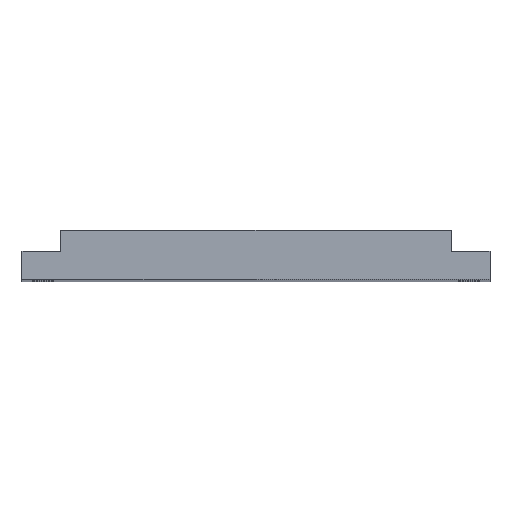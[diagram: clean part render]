
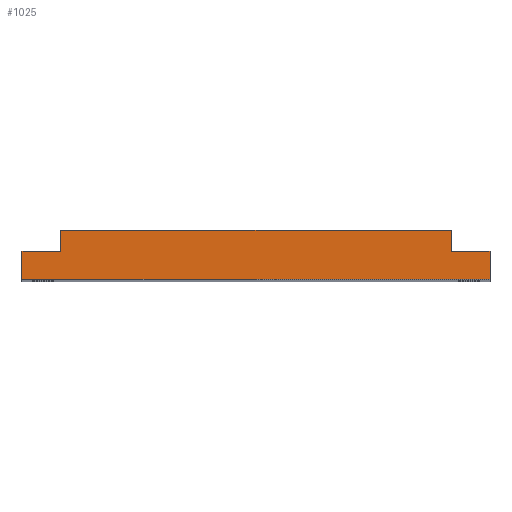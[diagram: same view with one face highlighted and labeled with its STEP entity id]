
A CAD part, top view. The second image highlights one B-rep face of the part: STEP entity #1025.
In plain terms, the highlighted planar face has unit normal (0, 0, 1).
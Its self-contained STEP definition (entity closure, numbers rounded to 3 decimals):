
#35 = DIRECTION ( 'NONE',  ( 0., -1., 0. ) ) ;
#94 = DIRECTION ( 'NONE',  ( -1., 0., 0. ) ) ;
#100 = VECTOR ( 'NONE', #912, 1000. ) ;
#101 = VERTEX_POINT ( 'NONE', #508 ) ;
#107 = EDGE_CURVE ( 'NONE', #101, #206, #880, .T. ) ;
#116 = CARTESIAN_POINT ( 'NONE',  ( 50., -3., 288. ) ) ;
#130 = EDGE_CURVE ( 'NONE', #975, #1013, #1177, .T. ) ;
#151 = DIRECTION ( 'NONE',  ( 1., 0., 0. ) ) ;
#156 = DIRECTION ( 'NONE',  ( -1., 0., 0. ) ) ;
#206 = VERTEX_POINT ( 'NONE', #1183 ) ;
#218 = CARTESIAN_POINT ( 'NONE',  ( -50., -3., 288. ) ) ;
#283 = EDGE_CURVE ( 'NONE', #1204, #672, #570, .T. ) ;
#284 = EDGE_CURVE ( 'NONE', #804, #975, #292, .T. ) ;
#292 = LINE ( 'NONE', #660, #597 ) ;
#305 = LINE ( 'NONE', #440, #100 ) ;
#306 = ORIENTED_EDGE ( 'NONE', *, *, #130, .T. ) ;
#320 = AXIS2_PLACEMENT_3D ( 'NONE', #1191, #918, #151 ) ;
#342 = PLANE ( 'NONE',  #320 ) ;
#346 = ORIENTED_EDGE ( 'NONE', *, *, #284, .T. ) ;
#359 = CARTESIAN_POINT ( 'NONE',  ( 50., 3., 288. ) ) ;
#393 = EDGE_CURVE ( 'NONE', #876, #1204, #867, .T. ) ;
#409 = CARTESIAN_POINT ( 'NONE',  ( -41.75, 7.5, 288. ) ) ;
#440 = CARTESIAN_POINT ( 'NONE',  ( 50., -3., 288. ) ) ;
#467 = LINE ( 'NONE', #596, #920 ) ;
#477 = CARTESIAN_POINT ( 'NONE',  ( -41.75, 3., 288. ) ) ;
#479 = EDGE_CURVE ( 'NONE', #672, #101, #543, .T. ) ;
#501 = ORIENTED_EDGE ( 'NONE', *, *, #946, .T. ) ;
#502 = DIRECTION ( 'NONE',  ( -1., 0., 0. ) ) ;
#508 = CARTESIAN_POINT ( 'NONE',  ( 41.75, 7.5, 288. ) ) ;
#510 = CARTESIAN_POINT ( 'NONE',  ( -50., -3., 288. ) ) ;
#512 = VECTOR ( 'NONE', #700, 1000. ) ;
#543 = LINE ( 'NONE', #900, #512 ) ;
#559 = CARTESIAN_POINT ( 'NONE',  ( 41.75, 3., 288. ) ) ;
#570 = LINE ( 'NONE', #737, #1019 ) ;
#575 = ORIENTED_EDGE ( 'NONE', *, *, #1144, .T. ) ;
#578 = FACE_OUTER_BOUND ( 'NONE', #689, .T. ) ;
#596 = CARTESIAN_POINT ( 'NONE',  ( -41.75, 7.5, 288. ) ) ;
#597 = VECTOR ( 'NONE', #156, 1000. ) ;
#599 = DIRECTION ( 'NONE',  ( 0., -1., 0. ) ) ;
#620 = ORIENTED_EDGE ( 'NONE', *, *, #479, .T. ) ;
#660 = CARTESIAN_POINT ( 'NONE',  ( -41.75, 3., 288. ) ) ;
#672 = VERTEX_POINT ( 'NONE', #559 ) ;
#689 = EDGE_LOOP ( 'NONE', ( #306, #575, #718, #1090, #620, #840, #501, #346 ) ) ;
#700 = DIRECTION ( 'NONE',  ( 0., 1., 0. ) ) ;
#718 = ORIENTED_EDGE ( 'NONE', *, *, #393, .T. ) ;
#737 = CARTESIAN_POINT ( 'NONE',  ( 50., 3., 288. ) ) ;
#804 = VERTEX_POINT ( 'NONE', #477 ) ;
#840 = ORIENTED_EDGE ( 'NONE', *, *, #107, .T. ) ;
#842 = VECTOR ( 'NONE', #35, 1000. ) ;
#867 = LINE ( 'NONE', #953, #1092 ) ;
#876 = VERTEX_POINT ( 'NONE', #116 ) ;
#880 = LINE ( 'NONE', #409, #1093 ) ;
#884 = CARTESIAN_POINT ( 'NONE',  ( -50., 3., 288. ) ) ;
#900 = CARTESIAN_POINT ( 'NONE',  ( 41.75, 7.5, 288. ) ) ;
#912 = DIRECTION ( 'NONE',  ( 1., 0., 0. ) ) ;
#918 = DIRECTION ( 'NONE',  ( 0., 0., 1. ) ) ;
#920 = VECTOR ( 'NONE', #599, 1000. ) ;
#946 = EDGE_CURVE ( 'NONE', #206, #804, #467, .T. ) ;
#953 = CARTESIAN_POINT ( 'NONE',  ( 50., -3., 288. ) ) ;
#975 = VERTEX_POINT ( 'NONE', #884 ) ;
#1013 = VERTEX_POINT ( 'NONE', #510 ) ;
#1019 = VECTOR ( 'NONE', #94, 1000. ) ;
#1025 = ADVANCED_FACE ( 'NONE', ( #578 ), #342, .T. ) ;
#1055 = DIRECTION ( 'NONE',  ( 0., 1., 0. ) ) ;
#1090 = ORIENTED_EDGE ( 'NONE', *, *, #283, .T. ) ;
#1092 = VECTOR ( 'NONE', #1055, 1000. ) ;
#1093 = VECTOR ( 'NONE', #502, 1000. ) ;
#1144 = EDGE_CURVE ( 'NONE', #1013, #876, #305, .T. ) ;
#1177 = LINE ( 'NONE', #218, #842 ) ;
#1183 = CARTESIAN_POINT ( 'NONE',  ( -41.75, 7.5, 288. ) ) ;
#1191 = CARTESIAN_POINT ( 'NONE',  ( 0., 0., 288. ) ) ;
#1204 = VERTEX_POINT ( 'NONE', #359 ) ;
